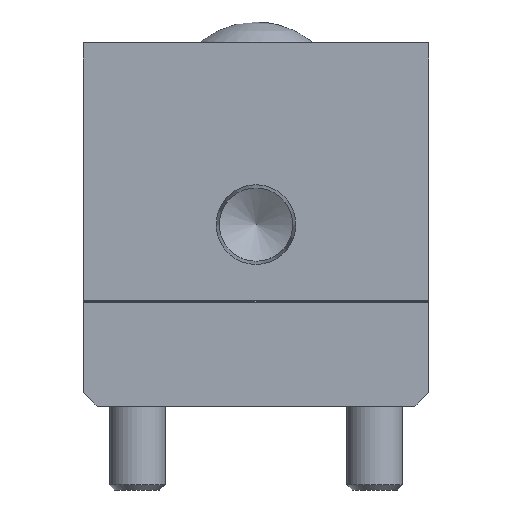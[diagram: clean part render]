
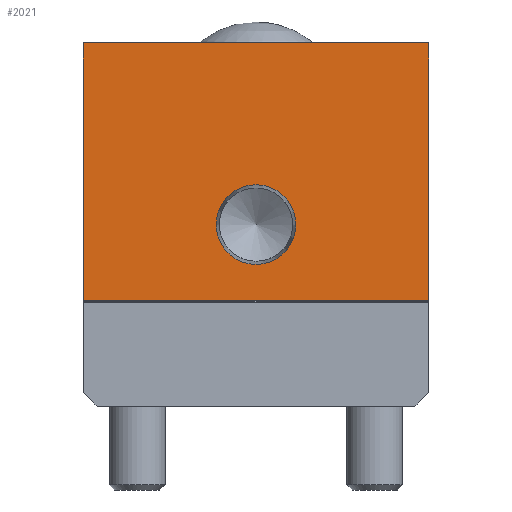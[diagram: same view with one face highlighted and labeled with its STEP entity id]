
A CAD part, front view. The second image highlights one B-rep face of the part: STEP entity #2021.
In plain terms, the highlighted planar face has unit normal (0, -1, 0).
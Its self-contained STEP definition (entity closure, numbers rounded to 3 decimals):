
#99=FACE_BOUND('',#430,.T.);
#146=CIRCLE('',#2149,5.704);
#272=FACE_OUTER_BOUND('',#429,.T.);
#429=EDGE_LOOP('',(#1526,#1527,#1528,#1529));
#430=EDGE_LOOP('',(#1530));
#615=LINE('',#3049,#785);
#618=LINE('',#3054,#788);
#620=LINE('',#3062,#790);
#634=LINE('',#3098,#804);
#785=VECTOR('',#2463,36.9);
#788=VECTOR('',#2468,49.5);
#790=VECTOR('',#2476,36.9);
#804=VECTOR('',#2520,49.5);
#938=VERTEX_POINT('',#3046);
#939=VERTEX_POINT('',#3048);
#940=VERTEX_POINT('',#3052);
#943=VERTEX_POINT('',#3060);
#947=VERTEX_POINT('',#3074);
#1132=EDGE_CURVE('',#939,#938,#615,.T.);
#1135=EDGE_CURVE('',#938,#940,#618,.T.);
#1139=EDGE_CURVE('',#943,#940,#620,.T.);
#1144=EDGE_CURVE('',#947,#947,#146,.T.);
#1157=EDGE_CURVE('',#943,#939,#634,.T.);
#1526=ORIENTED_EDGE('',*,*,#1157,.T.);
#1527=ORIENTED_EDGE('',*,*,#1132,.T.);
#1528=ORIENTED_EDGE('',*,*,#1135,.T.);
#1529=ORIENTED_EDGE('',*,*,#1139,.F.);
#1530=ORIENTED_EDGE('',*,*,#1144,.T.);
#1817=PLANE('',#2182);
#2021=ADVANCED_FACE('',(#272,#99),#1817,.T.);
#2149=AXIS2_PLACEMENT_3D('',#3075,#2491,#2492);
#2182=AXIS2_PLACEMENT_3D('',#3136,#2574,#2575);
#2463=DIRECTION('',(0.,0.,1.));
#2468=DIRECTION('',(-1.,0.,0.));
#2476=DIRECTION('',(0.,0.,1.));
#2491=DIRECTION('center_axis',(0.,1.,0.));
#2492=DIRECTION('ref_axis',(1.,0.,0.));
#2520=DIRECTION('',(1.,0.,0.));
#2574=DIRECTION('center_axis',(0.,-1.,0.));
#2575=DIRECTION('ref_axis',(0.,0.,-1.));
#3046=CARTESIAN_POINT('',(24.75,0.,52.));
#3048=CARTESIAN_POINT('',(24.75,0.,15.1));
#3049=CARTESIAN_POINT('',(24.75,0.,0.));
#3052=CARTESIAN_POINT('',(-24.75,0.,52.));
#3054=CARTESIAN_POINT('',(24.75,0.,52.));
#3060=CARTESIAN_POINT('',(-24.75,0.,15.1));
#3062=CARTESIAN_POINT('',(-24.75,0.,0.));
#3074=CARTESIAN_POINT('',(5.704,0.,26.));
#3075=CARTESIAN_POINT('Origin',(0.,0.,26.));
#3098=CARTESIAN_POINT('',(24.75,0.,15.1));
#3136=CARTESIAN_POINT('Origin',(24.75,0.,0.));
